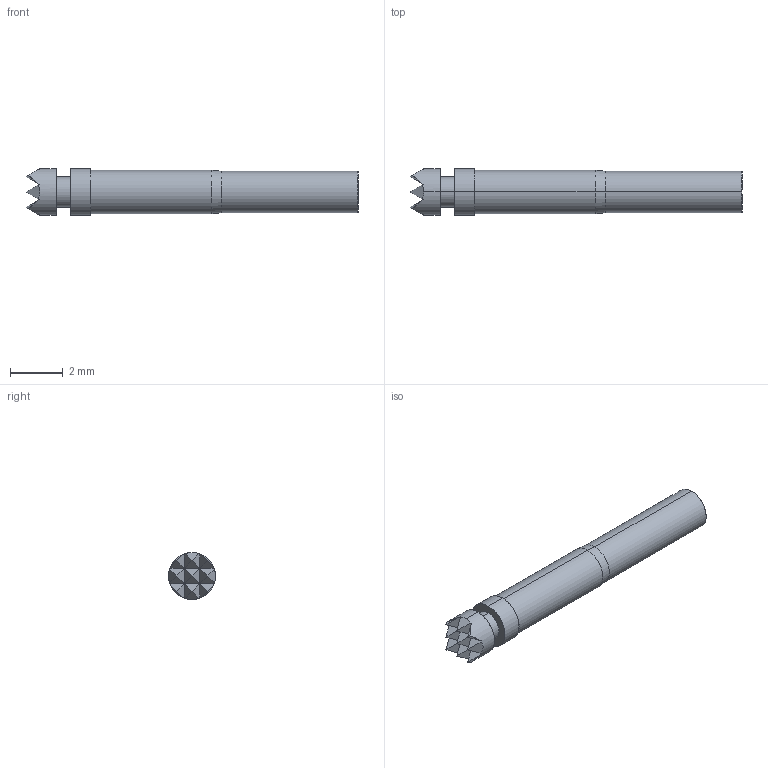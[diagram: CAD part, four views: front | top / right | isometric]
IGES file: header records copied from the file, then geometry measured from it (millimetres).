
Start section: SolidWorks IGES file using analytic representation for surfaces
Global section: file name: O:\PYLON\IGES FILES\E-S\E-S-W REC'D.IGS; native system: SolidWorks 2015; preprocessor: SolidWorks 2015; author: kgolden; date: 171024.084757; units: inch
Bounding box: 12.62 x 1.78 x 1.78 mm (x, y, z)
Surface area: 81.4 mm2 (no closed solid volume)
Topology: 0 solids, 0 shells, 55 faces, 414 edges, 414 vertices
Faces by surface type: bspline 41, revolution 14
